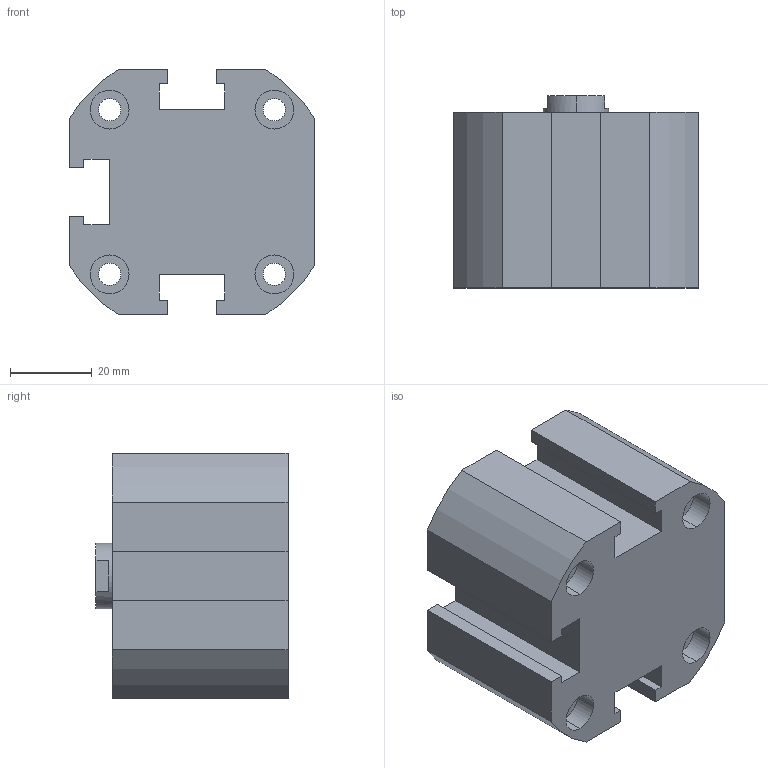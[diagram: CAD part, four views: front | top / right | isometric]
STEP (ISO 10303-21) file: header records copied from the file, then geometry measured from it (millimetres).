
FILE_DESCRIPTION (( 'STEP AP203' ), '1' );
FILE_NAME ('XC#2-40D-10.STEP', '2016-05-23T08:10:34', ( '' ), ( '' ), 'SwSTEP 2.0', 'SolidWorks 2014', '' );
FILE_SCHEMA (( 'CONFIG_CONTROL_DESIGN' ));
Length unit declared in the file: millimetre
Products named in the file (1): XC#2-40D-10
Bounding box: 60 x 47 x 60 mm (x, y, z)
Volume: 117973.5 mm3; surface area: 23389.1 mm2
Topology: 1 solids, 1 shells, 114 faces, 283 edges, 183 vertices
Faces by surface type: cylinder 54, plane 50, cone 10
Entity records: 3474 total; most frequent: DIRECTION 627, CARTESIAN_POINT 575, ORIENTED_EDGE 554, EDGE_CURVE 277, AXIS2_PLACEMENT_3D 235, VERTEX_POINT 183, VECTOR 157, LINE 157
